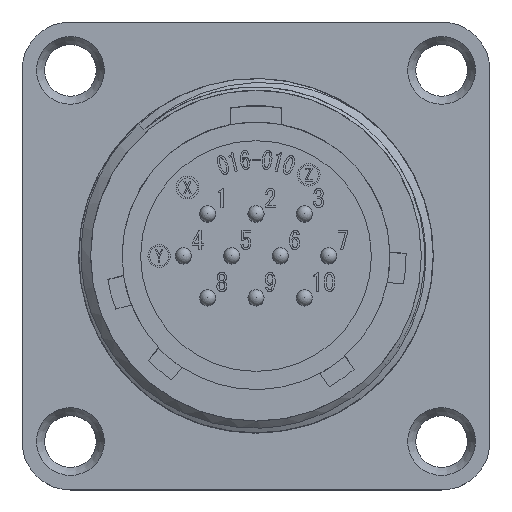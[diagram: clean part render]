
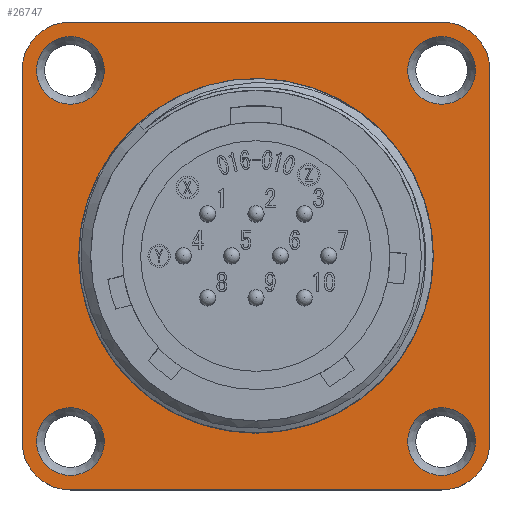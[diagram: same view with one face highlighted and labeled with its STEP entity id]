
A CAD part, top view. The second image highlights one B-rep face of the part: STEP entity #26747.
In plain terms, the highlighted planar face has unit normal (0, 0, 1).
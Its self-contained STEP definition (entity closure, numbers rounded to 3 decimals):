
#533 = DIRECTION ( 'NONE',  ( 1., 0., 0. ) ) ;
#1171 = AXIS2_PLACEMENT_3D ( 'NONE', #16715, #33071, #28633 ) ;
#1263 = DIRECTION ( 'NONE',  ( 1., 0., 0. ) ) ;
#1268 = ORIENTED_EDGE ( 'NONE', *, *, #48349, .F. ) ;
#1923 = CARTESIAN_POINT ( 'NONE',  ( -11.5, -11.5, -10.5 ) ) ;
#2280 = CARTESIAN_POINT ( 'NONE',  ( 11.5, -11.5, -10.5 ) ) ;
#2381 = CIRCLE ( 'NONE', #20267, 2.1 ) ;
#2559 = AXIS2_PLACEMENT_3D ( 'NONE', #2280, #18290, #18107 ) ;
#2954 = ORIENTED_EDGE ( 'NONE', *, *, #17697, .F. ) ;
#3008 = CIRCLE ( 'NONE', #1171, 3. ) ;
#3742 = VECTOR ( 'NONE', #35512, 1000. ) ;
#3974 = AXIS2_PLACEMENT_3D ( 'NONE', #10740, #19119, #47539 ) ;
#4786 = EDGE_LOOP ( 'NONE', ( #28970, #1268, #2954, #27976, #24117, #32944, #24548, #5140 ) ) ;
#4896 = CIRCLE ( 'NONE', #34938, 3. ) ;
#4937 = CIRCLE ( 'NONE', #42727, 2.1 ) ;
#5140 = ORIENTED_EDGE ( 'NONE', *, *, #7267, .F. ) ;
#5262 = VERTEX_POINT ( 'NONE', #28720 ) ;
#5550 = EDGE_CURVE ( 'NONE', #9257, #26457, #35461, .T. ) ;
#6269 = CARTESIAN_POINT ( 'NONE',  ( -14.5, -11.5, -10.5 ) ) ;
#6454 = CARTESIAN_POINT ( 'NONE',  ( 11.5, 14.5, -10.5 ) ) ;
#6733 = EDGE_LOOP ( 'NONE', ( #40919 ) ) ;
#7267 = EDGE_CURVE ( 'NONE', #30584, #15567, #51930, .T. ) ;
#8486 = ORIENTED_EDGE ( 'NONE', *, *, #16532, .F. ) ;
#9257 = VERTEX_POINT ( 'NONE', #16695 ) ;
#9434 = LINE ( 'NONE', #19167, #3742 ) ;
#10569 = DIRECTION ( 'NONE',  ( 0., 1., 0. ) ) ;
#10740 = CARTESIAN_POINT ( 'NONE',  ( -11.5, -11.5, -10.5 ) ) ;
#10852 = CARTESIAN_POINT ( 'NONE',  ( -11.5, -11.5, -10.5 ) ) ;
#11233 = DIRECTION ( 'NONE',  ( 0., -1., 0. ) ) ;
#11394 = CIRCLE ( 'NONE', #50129, 2.1 ) ;
#12076 = CARTESIAN_POINT ( 'NONE',  ( 10.98, 0., -10.5 ) ) ;
#12871 = VERTEX_POINT ( 'NONE', #20460 ) ;
#13008 = AXIS2_PLACEMENT_3D ( 'NONE', #10852, #39121, #43392 ) ;
#13529 = DIRECTION ( 'NONE',  ( 1., 0., 0. ) ) ;
#13927 = CIRCLE ( 'NONE', #37897, 10.98 ) ;
#14175 = FACE_BOUND ( 'NONE', #34612, .T. ) ;
#14378 = DIRECTION ( 'NONE',  ( 1., 0., 0. ) ) ;
#14779 = FACE_BOUND ( 'NONE', #6733, .T. ) ;
#14783 = VERTEX_POINT ( 'NONE', #23304 ) ;
#14999 = CARTESIAN_POINT ( 'NONE',  ( 14.5, 11.5, -10.5 ) ) ;
#15371 = EDGE_LOOP ( 'NONE', ( #34685 ) ) ;
#15567 = VERTEX_POINT ( 'NONE', #47848 ) ;
#15631 = LINE ( 'NONE', #14999, #18196 ) ;
#16022 = VERTEX_POINT ( 'NONE', #12076 ) ;
#16532 = EDGE_CURVE ( 'NONE', #20532, #20532, #2381, .T. ) ;
#16695 = CARTESIAN_POINT ( 'NONE',  ( -11.5, 14.5, -10.5 ) ) ;
#16708 = CARTESIAN_POINT ( 'NONE',  ( 13.6, 11.5, -10.5 ) ) ;
#16715 = CARTESIAN_POINT ( 'NONE',  ( -11.5, 11.5, -10.5 ) ) ;
#16910 = VERTEX_POINT ( 'NONE', #30299 ) ;
#17652 = CIRCLE ( 'NONE', #2559, 3. ) ;
#17697 = EDGE_CURVE ( 'NONE', #16910, #18049, #17652, .T. ) ;
#18049 = VERTEX_POINT ( 'NONE', #18349 ) ;
#18107 = DIRECTION ( 'NONE',  ( -1., 0., 0. ) ) ;
#18196 = VECTOR ( 'NONE', #11233, 1000. ) ;
#18290 = DIRECTION ( 'NONE',  ( 0., 0., -1. ) ) ;
#18349 = CARTESIAN_POINT ( 'NONE',  ( 11.5, -14.5, -10.5 ) ) ;
#18410 = CARTESIAN_POINT ( 'NONE',  ( 11.5, 11.5, -10.5 ) ) ;
#18748 = DIRECTION ( 'NONE',  ( -1., 0., 0. ) ) ;
#19119 = DIRECTION ( 'NONE',  ( 0., 0., 1. ) ) ;
#19167 = CARTESIAN_POINT ( 'NONE',  ( 11.5, -14.5, -10.5 ) ) ;
#19886 = EDGE_CURVE ( 'NONE', #14783, #14783, #28374, .T. ) ;
#20016 = ORIENTED_EDGE ( 'NONE', *, *, #33105, .F. ) ;
#20267 = AXIS2_PLACEMENT_3D ( 'NONE', #49741, #25243, #533 ) ;
#20460 = CARTESIAN_POINT ( 'NONE',  ( -9.4, 11.5, -10.5 ) ) ;
#20532 = VERTEX_POINT ( 'NONE', #39421 ) ;
#20715 = EDGE_LOOP ( 'NONE', ( #25508 ) ) ;
#21316 = VERTEX_POINT ( 'NONE', #47910 ) ;
#22900 = CARTESIAN_POINT ( 'NONE',  ( 11.5, 11.5, -10.5 ) ) ;
#23304 = CARTESIAN_POINT ( 'NONE',  ( -9.4, -11.5, -10.5 ) ) ;
#23720 = FACE_OUTER_BOUND ( 'NONE', #4786, .T. ) ;
#24117 = ORIENTED_EDGE ( 'NONE', *, *, #36842, .F. ) ;
#24548 = ORIENTED_EDGE ( 'NONE', *, *, #49912, .F. ) ;
#24690 = VECTOR ( 'NONE', #38435, 1000. ) ;
#25243 = DIRECTION ( 'NONE',  ( 0., 0., 1. ) ) ;
#25254 = VECTOR ( 'NONE', #10569, 1000. ) ;
#25508 = ORIENTED_EDGE ( 'NONE', *, *, #48027, .T. ) ;
#26457 = VERTEX_POINT ( 'NONE', #26975 ) ;
#26747 = ADVANCED_FACE ( 'NONE', ( #23720, #37682, #26895, #14779, #14175, #28843 ), #34887, .T. ) ;
#26895 = FACE_BOUND ( 'NONE', #52083, .T. ) ;
#26975 = CARTESIAN_POINT ( 'NONE',  ( 11.5, 14.5, -10.5 ) ) ;
#27976 = ORIENTED_EDGE ( 'NONE', *, *, #36904, .F. ) ;
#28374 = CIRCLE ( 'NONE', #3974, 2.1 ) ;
#28633 = DIRECTION ( 'NONE',  ( 1., 0., 0. ) ) ;
#28720 = CARTESIAN_POINT ( 'NONE',  ( -11.5, -14.5, -10.5 ) ) ;
#28843 = FACE_BOUND ( 'NONE', #20715, .T. ) ;
#28970 = ORIENTED_EDGE ( 'NONE', *, *, #36287, .F. ) ;
#29549 = CARTESIAN_POINT ( 'NONE',  ( -11.5, 11.5, -10.5 ) ) ;
#30299 = CARTESIAN_POINT ( 'NONE',  ( 14.5, -11.5, -10.5 ) ) ;
#30397 = DIRECTION ( 'NONE',  ( 0., 0., 1. ) ) ;
#30584 = VERTEX_POINT ( 'NONE', #6269 ) ;
#30729 = DIRECTION ( 'NONE',  ( 1., 0., 0. ) ) ;
#32944 = ORIENTED_EDGE ( 'NONE', *, *, #5550, .F. ) ;
#33071 = DIRECTION ( 'NONE',  ( 0., 0., -1. ) ) ;
#33105 = EDGE_CURVE ( 'NONE', #12871, #12871, #4937, .T. ) ;
#34612 = EDGE_LOOP ( 'NONE', ( #20016 ) ) ;
#34685 = ORIENTED_EDGE ( 'NONE', *, *, #19886, .F. ) ;
#34887 = PLANE ( 'NONE',  #13008 ) ;
#34908 = DIRECTION ( 'NONE',  ( 0., 0., -1. ) ) ;
#34938 = AXIS2_PLACEMENT_3D ( 'NONE', #1923, #42443, #30729 ) ;
#34939 = CARTESIAN_POINT ( 'NONE',  ( -14.5, 11.5, -10.5 ) ) ;
#35461 = LINE ( 'NONE', #6454, #24690 ) ;
#35512 = DIRECTION ( 'NONE',  ( -1., 0., 0. ) ) ;
#36287 = EDGE_CURVE ( 'NONE', #5262, #30584, #4896, .T. ) ;
#36842 = EDGE_CURVE ( 'NONE', #26457, #21316, #38500, .T. ) ;
#36904 = EDGE_CURVE ( 'NONE', #21316, #16910, #15631, .T. ) ;
#37682 = FACE_BOUND ( 'NONE', #15371, .T. ) ;
#37897 = AXIS2_PLACEMENT_3D ( 'NONE', #41945, #46020, #13529 ) ;
#38435 = DIRECTION ( 'NONE',  ( 1., 0., 0. ) ) ;
#38500 = CIRCLE ( 'NONE', #46834, 3. ) ;
#39121 = DIRECTION ( 'NONE',  ( 0., 0., 1. ) ) ;
#39421 = CARTESIAN_POINT ( 'NONE',  ( 13.6, -11.5, -10.5 ) ) ;
#40919 = ORIENTED_EDGE ( 'NONE', *, *, #46926, .F. ) ;
#41945 = CARTESIAN_POINT ( 'NONE',  ( 0., 0., -10.5 ) ) ;
#42443 = DIRECTION ( 'NONE',  ( 0., 0., -1. ) ) ;
#42727 = AXIS2_PLACEMENT_3D ( 'NONE', #29549, #49955, #1263 ) ;
#43392 = DIRECTION ( 'NONE',  ( 1., 0., 0. ) ) ;
#45889 = VERTEX_POINT ( 'NONE', #16708 ) ;
#46020 = DIRECTION ( 'NONE',  ( 0., 0., -1. ) ) ;
#46834 = AXIS2_PLACEMENT_3D ( 'NONE', #18410, #34908, #18748 ) ;
#46926 = EDGE_CURVE ( 'NONE', #45889, #45889, #11394, .T. ) ;
#47539 = DIRECTION ( 'NONE',  ( 1., 0., 0. ) ) ;
#47848 = CARTESIAN_POINT ( 'NONE',  ( -14.5, 11.5, -10.5 ) ) ;
#47910 = CARTESIAN_POINT ( 'NONE',  ( 14.5, 11.5, -10.5 ) ) ;
#48027 = EDGE_CURVE ( 'NONE', #16022, #16022, #13927, .T. ) ;
#48349 = EDGE_CURVE ( 'NONE', #18049, #5262, #9434, .T. ) ;
#49741 = CARTESIAN_POINT ( 'NONE',  ( 11.5, -11.5, -10.5 ) ) ;
#49912 = EDGE_CURVE ( 'NONE', #15567, #9257, #3008, .T. ) ;
#49955 = DIRECTION ( 'NONE',  ( 0., 0., 1. ) ) ;
#50129 = AXIS2_PLACEMENT_3D ( 'NONE', #22900, #30397, #14378 ) ;
#51930 = LINE ( 'NONE', #34939, #25254 ) ;
#52083 = EDGE_LOOP ( 'NONE', ( #8486 ) ) ;
